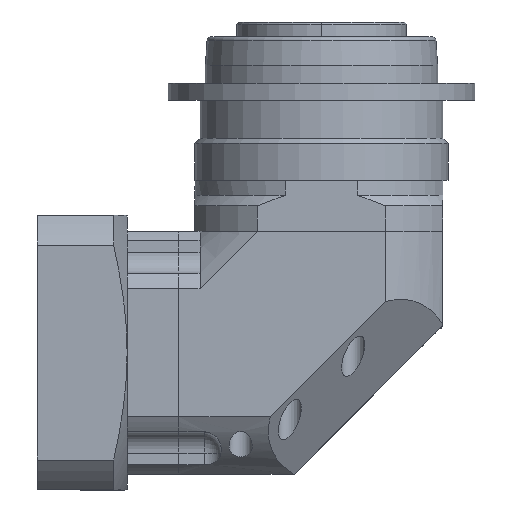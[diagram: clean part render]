
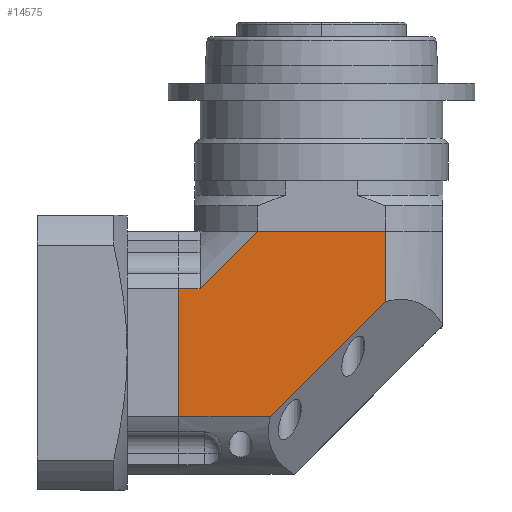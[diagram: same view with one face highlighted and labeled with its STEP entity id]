
A CAD part, left-side view. The second image highlights one B-rep face of the part: STEP entity #14575.
In plain terms, the highlighted planar face has unit normal (-1, 0, 0).
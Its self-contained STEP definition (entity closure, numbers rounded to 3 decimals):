
#265 = EDGE_CURVE ( 'NONE', #20630, #7768, #13443, .T. ) ;
#296 = EDGE_CURVE ( 'NONE', #14614, #6213, #14559, .T. ) ;
#492 = VERTEX_POINT ( 'NONE', #16909 ) ;
#560 = CARTESIAN_POINT ( 'NONE',  ( -57.5, -30.311, -173.5 ) ) ;
#1010 = VECTOR ( 'NONE', #12279, 1000. ) ;
#1733 = DIRECTION ( 'NONE',  ( 0., -0.707, 0.707 ) ) ;
#2502 = DIRECTION ( 'NONE',  ( 0., 1., 0. ) ) ;
#3569 = CARTESIAN_POINT ( 'NONE',  ( -57.5, 57.5, -85.689 ) ) ;
#3862 = CARTESIAN_POINT ( 'NONE',  ( -57.5, 30.311, -58.5 ) ) ;
#4022 = DIRECTION ( 'NONE',  ( 0., 0., -1. ) ) ;
#5034 = ORIENTED_EDGE ( 'NONE', *, *, #11846, .T. ) ;
#6040 = CARTESIAN_POINT ( 'NONE',  ( -57.5, -8.767, -58.5 ) ) ;
#6213 = VERTEX_POINT ( 'NONE', #12610 ) ;
#6431 = DIRECTION ( 'NONE',  ( 0., -1., 0. ) ) ;
#6794 = VECTOR ( 'NONE', #4022, 1000. ) ;
#6900 = CARTESIAN_POINT ( 'NONE',  ( -57.5, 48.437, -76.626 ) ) ;
#7150 = ORIENTED_EDGE ( 'NONE', *, *, #16832, .F. ) ;
#7162 = PLANE ( 'NONE',  #11087 ) ;
#7381 = LINE ( 'NONE', #560, #6794 ) ;
#7768 = VERTEX_POINT ( 'NONE', #8270 ) ;
#8270 = CARTESIAN_POINT ( 'NONE',  ( -57.5, -30.311, -91.737 ) ) ;
#9033 = B_SPLINE_CURVE_WITH_KNOTS ( 'NONE', 3,
 ( #3569, #6900, #17871, #12425 ),
 .UNSPECIFIED., .F., .F.,
 ( 4, 4 ),
 ( 0., 1. ),
 .UNSPECIFIED. ) ;
#9234 = VECTOR ( 'NONE', #13052, 1000. ) ;
#10734 = VECTOR ( 'NONE', #2502, 1000. ) ;
#11087 = AXIS2_PLACEMENT_3D ( 'NONE', #18528, #21888, #14974 ) ;
#11469 = ORIENTED_EDGE ( 'NONE', *, *, #19655, .F. ) ;
#11829 = ORIENTED_EDGE ( 'NONE', *, *, #296, .T. ) ;
#11846 = EDGE_CURVE ( 'NONE', #492, #20630, #21028, .T. ) ;
#12279 = DIRECTION ( 'NONE',  ( 0., 0., -1. ) ) ;
#12425 = CARTESIAN_POINT ( 'NONE',  ( -57.5, 30.311, -58.5 ) ) ;
#12610 = CARTESIAN_POINT ( 'NONE',  ( -57.5, 67.5, -85.689 ) ) ;
#12979 = CARTESIAN_POINT ( 'NONE',  ( -57.5, -30.311, -58.5 ) ) ;
#13052 = DIRECTION ( 'NONE',  ( 0., 1., 0. ) ) ;
#13443 = LINE ( 'NONE', #14389, #20186 ) ;
#13739 = EDGE_CURVE ( 'NONE', #15319, #18828, #20291, .T. ) ;
#13997 = FACE_OUTER_BOUND ( 'NONE', #15791, .T. ) ;
#14389 = CARTESIAN_POINT ( 'NONE',  ( -57.5, -7.407, -114.64 ) ) ;
#14559 = LINE ( 'NONE', #16756, #9234 ) ;
#14575 = ADVANCED_FACE ( 'NONE', ( #13997 ), #7162, .T. ) ;
#14614 = VERTEX_POINT ( 'NONE', #16478 ) ;
#14974 = DIRECTION ( 'NONE',  ( 0., 0., 1. ) ) ;
#15207 = ORIENTED_EDGE ( 'NONE', *, *, #13739, .T. ) ;
#15319 = VERTEX_POINT ( 'NONE', #12979 ) ;
#15791 = EDGE_LOOP ( 'NONE', ( #11469, #11829, #22308, #5034, #18487, #7150, #15207 ) ) ;
#16478 = CARTESIAN_POINT ( 'NONE',  ( -57.5, 57.5, -85.689 ) ) ;
#16756 = CARTESIAN_POINT ( 'NONE',  ( -57.5, 57.5, -85.689 ) ) ;
#16832 = EDGE_CURVE ( 'NONE', #15319, #7768, #7381, .T. ) ;
#16909 = CARTESIAN_POINT ( 'NONE',  ( -57.5, 67.5, -146.311 ) ) ;
#17871 = CARTESIAN_POINT ( 'NONE',  ( -57.5, 39.374, -67.563 ) ) ;
#18487 = ORIENTED_EDGE ( 'NONE', *, *, #265, .T. ) ;
#18528 = CARTESIAN_POINT ( 'NONE',  ( -57.5, -8.767, -116. ) ) ;
#18828 = VERTEX_POINT ( 'NONE', #3862 ) ;
#19523 = CARTESIAN_POINT ( 'NONE',  ( -57.5, 24.263, -146.311 ) ) ;
#19655 = EDGE_CURVE ( 'NONE', #14614, #18828, #9033, .T. ) ;
#19697 = EDGE_CURVE ( 'NONE', #6213, #492, #22631, .T. ) ;
#20186 = VECTOR ( 'NONE', #1733, 1000. ) ;
#20291 = LINE ( 'NONE', #6040, #10734 ) ;
#20630 = VERTEX_POINT ( 'NONE', #19523 ) ;
#20692 = CARTESIAN_POINT ( 'NONE',  ( -57.5, -57.5, -146.311 ) ) ;
#21028 = LINE ( 'NONE', #20692, #23285 ) ;
#21888 = DIRECTION ( 'NONE',  ( -1., 0., 0. ) ) ;
#22308 = ORIENTED_EDGE ( 'NONE', *, *, #19697, .T. ) ;
#22631 = LINE ( 'NONE', #23020, #1010 ) ;
#23020 = CARTESIAN_POINT ( 'NONE',  ( -57.5, 67.5, -116. ) ) ;
#23285 = VECTOR ( 'NONE', #6431, 1000. ) ;
